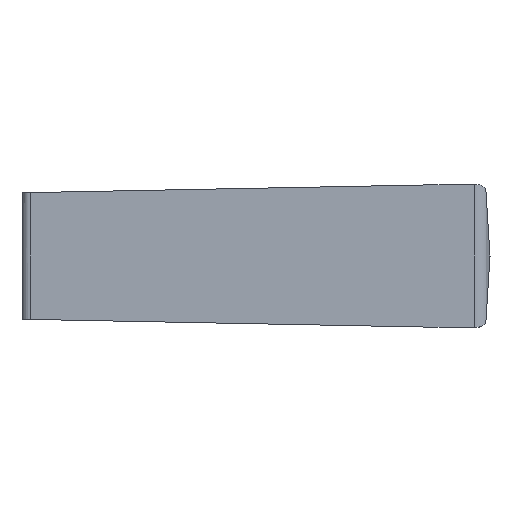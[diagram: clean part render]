
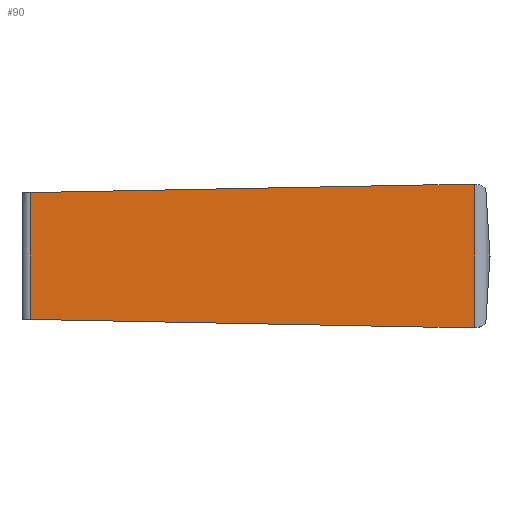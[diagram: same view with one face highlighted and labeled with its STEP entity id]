
A CAD part, left-side view. The second image highlights one B-rep face of the part: STEP entity #90.
In plain terms, the highlighted planar face has unit normal (-1, -0.026, 0).
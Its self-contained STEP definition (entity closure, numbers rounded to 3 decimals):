
#90 = ADVANCED_FACE( '', ( #142 ), #143, .F. );
#142 = FACE_OUTER_BOUND( '', #214, .T. );
#143 = PLANE( '', #215 );
#214 = EDGE_LOOP( '', ( #387, #388, #389, #390, #391, #392 ) );
#215 = AXIS2_PLACEMENT_3D( '', #393, #394, #395 );
#387 = ORIENTED_EDGE( '', *, *, #563, .T. );
#388 = ORIENTED_EDGE( '', *, *, #598, .F. );
#389 = ORIENTED_EDGE( '', *, *, #586, .F. );
#390 = ORIENTED_EDGE( '', *, *, #599, .F. );
#391 = ORIENTED_EDGE( '', *, *, #556, .T. );
#392 = ORIENTED_EDGE( '', *, *, #600, .T. );
#393 = CARTESIAN_POINT( '', ( -3.9, -28.626, 15. ) );
#394 = DIRECTION( '', ( 1., 0.026, 0. ) );
#395 = DIRECTION( '', ( 0.026, -1., 0. ) );
#556 = EDGE_CURVE( '', #670, #668, #671, .T. );
#563 = EDGE_CURVE( '', #683, #684, #685, .T. );
#586 = EDGE_CURVE( '', #717, #720, #721, .T. );
#598 = EDGE_CURVE( '', #720, #684, #742, .T. );
#599 = EDGE_CURVE( '', #670, #717, #743, .T. );
#600 = EDGE_CURVE( '', #668, #683, #744, .T. );
#668 = VERTEX_POINT( '', #857 );
#670 = VERTEX_POINT( '', #859 );
#671 = LINE( '', #860, #861 );
#683 = VERTEX_POINT( '', #877 );
#684 = VERTEX_POINT( '', #878 );
#685 = LINE( '', #879, #880 );
#717 = VERTEX_POINT( '', #958 );
#720 = VERTEX_POINT( '', #961 );
#721 = LINE( '', #962, #963 );
#742 = LINE( '', #1056, #1057 );
#743 = LINE( '', #1058, #1059 );
#744 = LINE( '', #1060, #1061 );
#857 = CARTESIAN_POINT( '', ( -4.637, -0.513, 4.01 ) );
#859 = CARTESIAN_POINT( '', ( -3.973, -25.86, 4.5 ) );
#860 = CARTESIAN_POINT( '', ( -3.865, -29.968, 4.579 ) );
#861 = VECTOR( '', #1136, 1. );
#877 = CARTESIAN_POINT( '', ( -4.637, -0.513, -4.01 ) );
#878 = CARTESIAN_POINT( '', ( -3.973, -25.86, -4.5 ) );
#879 = CARTESIAN_POINT( '', ( -4.211, -16.757, -4.324 ) );
#880 = VECTOR( '', #1147, 1. );
#958 = CARTESIAN_POINT( '', ( -3.9, -28.626, 4.5 ) );
#961 = CARTESIAN_POINT( '', ( -3.9, -28.626, -4.5 ) );
#962 = CARTESIAN_POINT( '', ( -3.9, -28.626, 15. ) );
#963 = VECTOR( '', #1184, 1. );
#1056 = CARTESIAN_POINT( '', ( -3.829, -31.362, -4.5 ) );
#1057 = VECTOR( '', #1194, 1. );
#1058 = CARTESIAN_POINT( '', ( -3.868, -29.868, 4.5 ) );
#1059 = VECTOR( '', #1195, 1. );
#1060 = CARTESIAN_POINT( '', ( -4.637, -0.513, 15. ) );
#1061 = VECTOR( '', #1196, 1. );
#1136 = DIRECTION( '', ( -0.026, 0.999, -0.019 ) );
#1147 = DIRECTION( '', ( 0.026, -0.999, -0.019 ) );
#1184 = DIRECTION( '', ( 0., 0., -1. ) );
#1194 = DIRECTION( '', ( -0.026, 1., 0. ) );
#1195 = DIRECTION( '', ( 0.026, -1., 0. ) );
#1196 = DIRECTION( '', ( 0., 0., -1. ) );
